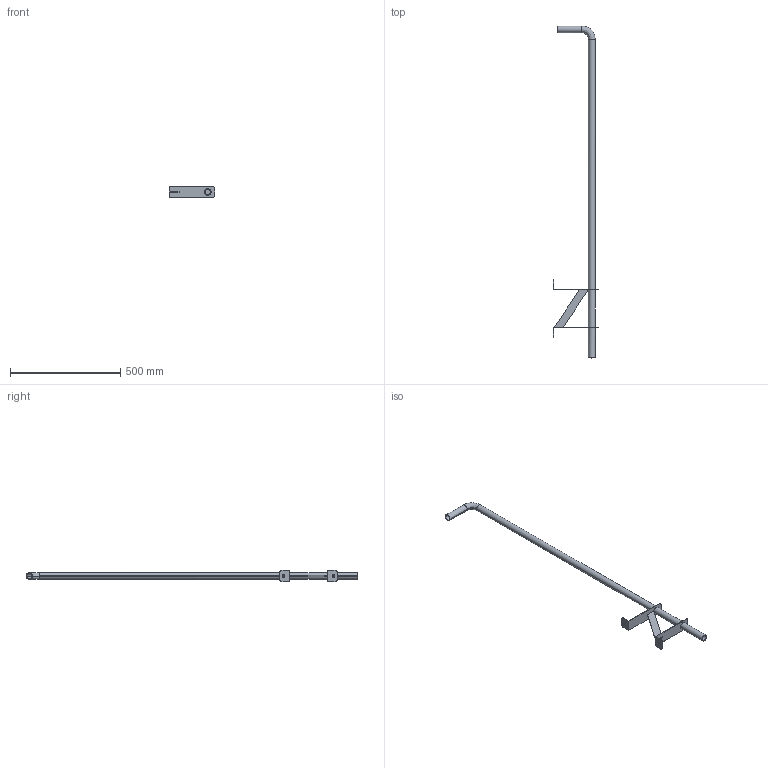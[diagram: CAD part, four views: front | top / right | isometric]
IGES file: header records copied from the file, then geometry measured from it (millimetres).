
Start section:  PTC IGES file: 52332361.igs
Global section: file name: 52332361.igs; native system: Creo Parametric by PTC Inc.; preprocessor: 2022162; author: wep; organization: Unknown; date: 20241218.113019; units: millimetre
Bounding box: 207 x 1502.5 x 50 mm (x, y, z)
Surface area: 346282 mm2 (no closed solid volume)
Topology: 0 solids, 0 shells, 58 faces, 274 edges, 273 vertices
Faces by surface type: revolution 32, bspline 26
